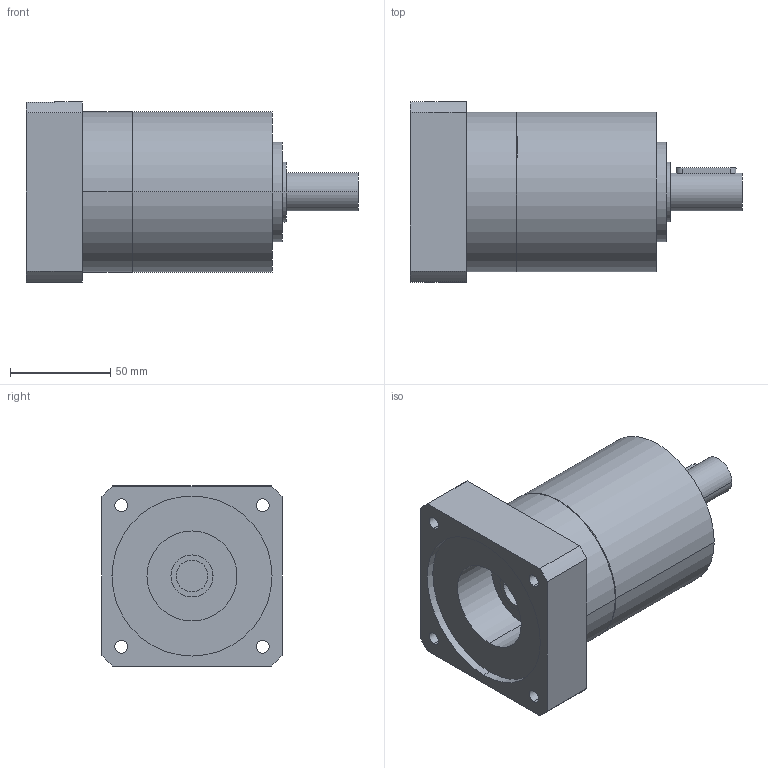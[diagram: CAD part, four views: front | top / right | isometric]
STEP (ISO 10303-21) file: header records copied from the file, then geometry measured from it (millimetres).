
FILE_DESCRIPTION(('CoCreate Modeling STEP Export'),'2;1');
FILE_NAME('GPR100_ig-3-4-5-6_19_B14_15.87_P28.stp','2014-08-26T10:07:54',(''),(''),'CoCreate Modeling STEP processor for AP214 (Solid Model)','CoCreate Modeling 16.00C 25-Feb-2009 (C) Parametric Technology GmbH','');
FILE_SCHEMA(('AUTOMOTIVE_DESIGN { 1 0 10303 214 1 1 1 1 }'));
Length unit declared in the file: millimetre
Products named in the file (2): GPR100_ig-3-4-5-6_19_B14_15.87_P28
Assembly tree (1 placements, depth 2):
  GPR100_ig-3-4-5-6_19_B14_15.87_P28
    GPR100_ig-3-4-5-6_19_B14_15.87_P28
Bounding box: 166 x 90 x 90 mm (x, y, z)
Volume: 655481.9 mm3; surface area: 63399 mm2
Topology: 1 solids, 1 shells, 70 faces, 185 edges, 129 vertices
Faces by surface type: cylinder 42, plane 22, cone 6
Entity records: 1924 total; most frequent: ORIENTED_EDGE 366, CARTESIAN_POINT 357, DIRECTION 262, EDGE_CURVE 183, VERTEX_POINT 129, AXIS2_PLACEMENT_3D 98, EDGE_LOOP 92, FACE_OUTER_BOUND 70
